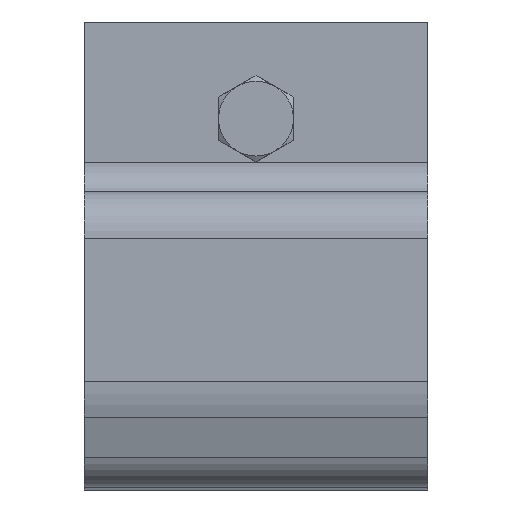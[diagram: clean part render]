
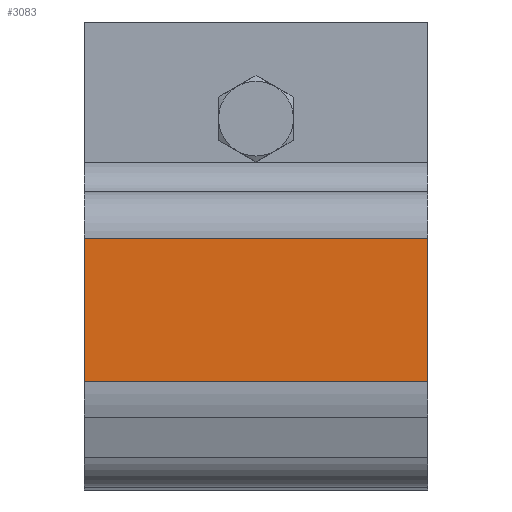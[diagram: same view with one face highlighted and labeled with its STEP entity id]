
A CAD part, top view. The second image highlights one B-rep face of the part: STEP entity #3083.
In plain terms, the highlighted planar face has unit normal (0, -0.009, 1) as drawn and (0, -0.009, -1) by its records, which use the part's own axes.
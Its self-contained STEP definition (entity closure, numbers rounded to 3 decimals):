
#121=PLANE('',#3284);
#212=FACE_OUTER_BOUND('',#396,.T.);
#396=EDGE_LOOP('',(#2136,#2137,#2138,#2139));
#777=LINE('',#4686,#1035);
#788=LINE('',#4714,#1046);
#792=LINE('',#4724,#1050);
#798=LINE('',#4739,#1056);
#1035=VECTOR('',#3674,110.);
#1046=VECTOR('',#3707,110.);
#1050=VECTOR('',#3717,45.898);
#1056=VECTOR('',#3735,45.898);
#1290=VERTEX_POINT('',#4683);
#1291=VERTEX_POINT('',#4685);
#1296=VERTEX_POINT('',#4712);
#1297=VERTEX_POINT('',#4713);
#1601=EDGE_CURVE('',#1290,#1291,#777,.T.);
#1615=EDGE_CURVE('',#1296,#1297,#788,.T.);
#1621=EDGE_CURVE('',#1291,#1297,#792,.T.);
#1629=EDGE_CURVE('',#1296,#1290,#798,.T.);
#2136=ORIENTED_EDGE('',*,*,#1615,.T.);
#2137=ORIENTED_EDGE('',*,*,#1621,.F.);
#2138=ORIENTED_EDGE('',*,*,#1601,.F.);
#2139=ORIENTED_EDGE('',*,*,#1629,.F.);
#3083=ADVANCED_FACE('',(#212),#121,.T.);
#3284=AXIS2_PLACEMENT_3D('',#4740,#3736,#3737);
#3674=DIRECTION('',(1.,0.,0.));
#3707=DIRECTION('',(1.,0.,0.));
#3717=DIRECTION('',(0.,1.,-0.009));
#3735=DIRECTION('',(0.,-1.,0.009));
#3736=DIRECTION('center_axis',(0.,-0.009,
-1.));
#3737=DIRECTION('ref_axis',(0.,1.,-0.009));
#4683=CARTESIAN_POINT('',(-55.,-84.331,-41.648));
#4685=CARTESIAN_POINT('',(55.,-84.331,-41.648));
#4686=CARTESIAN_POINT('',(-55.,-84.331,-41.648));
#4712=CARTESIAN_POINT('',(-55.,-38.435,-42.049));
#4713=CARTESIAN_POINT('',(55.,-38.435,-42.049));
#4714=CARTESIAN_POINT('',(0.,-38.435,-42.049));
#4724=CARTESIAN_POINT('',(55.,-8.701,-42.308));
#4739=CARTESIAN_POINT('',(-55.,-38.435,-42.049));
#4740=CARTESIAN_POINT('Origin',(0.,-53.495,-41.917));
